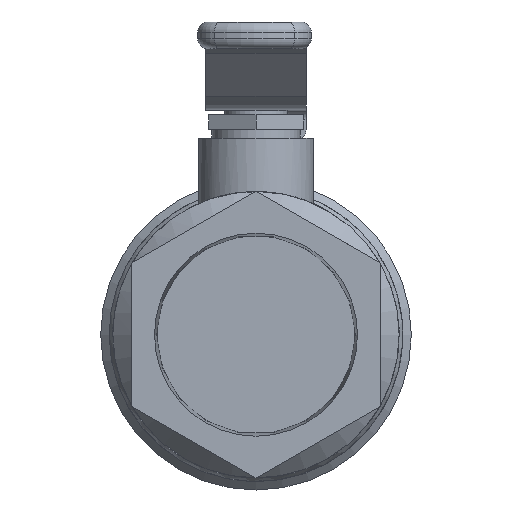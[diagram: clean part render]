
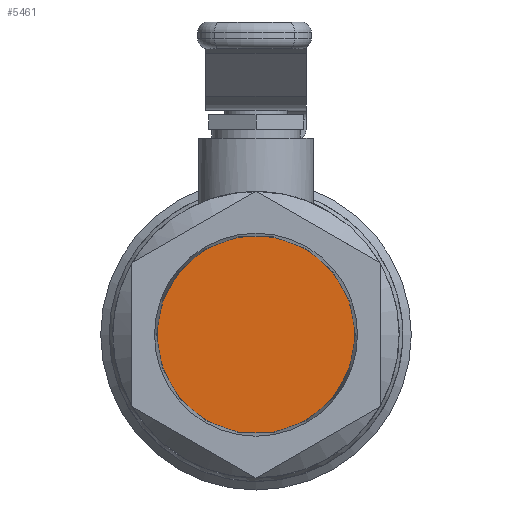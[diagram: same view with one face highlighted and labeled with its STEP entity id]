
A CAD part, left-side view. The second image highlights one B-rep face of the part: STEP entity #5461.
In plain terms, the highlighted planar face has unit normal (-1, 0, 0).
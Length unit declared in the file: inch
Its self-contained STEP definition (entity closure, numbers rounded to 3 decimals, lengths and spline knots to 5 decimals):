
#5445=CARTESIAN_POINT('',(0.6809,-0.38521,0.0));
#5446=DIRECTION('',(1.0,0.0,0.0));
#5447=DIRECTION('',(0.0,1.0,0.0));
#5448=AXIS2_PLACEMENT_3D('',#5445,#5446,#5447);
#5449=PLANE('',#5448);
#5450=CARTESIAN_POINT('',(0.6809,-0.77041,0.0));
#5451=VERTEX_POINT('',#5450);
#5452=CARTESIAN_POINT('',(0.6809,0.0,0.0));
#5453=DIRECTION('',(-1.0,0.0,0.0));
#5454=DIRECTION('',(0.0,-1.0,0.0));
#5455=AXIS2_PLACEMENT_3D('',#5452,#5453,#5454);
#5456=CIRCLE('',#5455,0.77042);
#5457=EDGE_CURVE('',#5451,#5451,#5456,.T.);
#5458=ORIENTED_EDGE('',*,*,#5457,.T.);
#5459=EDGE_LOOP('',(#5458));
#5460=FACE_OUTER_BOUND('',#5459,.T.);
#5461=ADVANCED_FACE('',(#5460),#5449,.F.);
